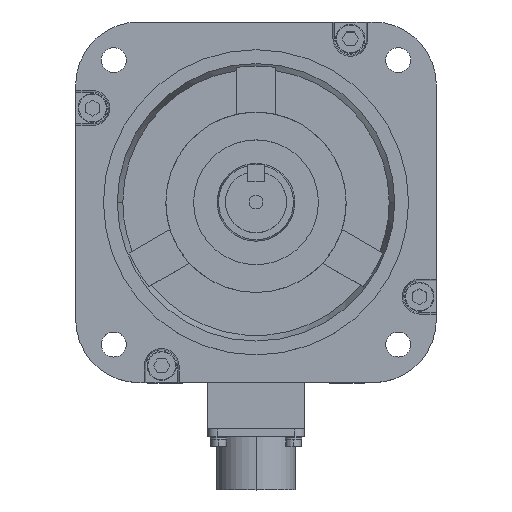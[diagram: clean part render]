
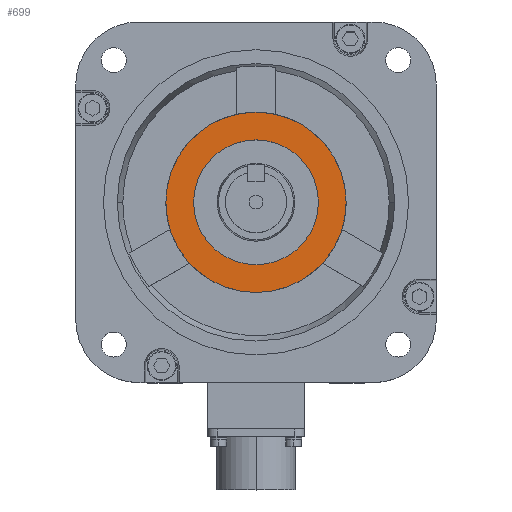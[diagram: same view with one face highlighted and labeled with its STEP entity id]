
A CAD part, top view. The second image highlights one B-rep face of the part: STEP entity #699.
In plain terms, the highlighted planar face has unit normal (0, 0, 1).
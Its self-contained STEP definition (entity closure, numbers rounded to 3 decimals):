
#260 = EDGE_LOOP ( 'NONE', ( #679, #677 ) ) ;
#286 = EDGE_CURVE ( 'NONE', #10078, #10417, #3139, .T. ) ;
#624 = ORIENTED_EDGE ( 'NONE', *, *, #11699, .T. ) ;
#625 = ORIENTED_EDGE ( 'NONE', *, *, #13920, .T. ) ;
#652 = EDGE_LOOP ( 'NONE', ( #624, #625 ) ) ;
#677 = ORIENTED_EDGE ( 'NONE', *, *, #9999, .F. ) ;
#679 = ORIENTED_EDGE ( 'NONE', *, *, #286, .F. ) ;
#699 = ADVANCED_FACE ( 'NONE', ( #3812, #3811 ), #3809, .T. ) ;
#3135 = DIRECTION ( 'NONE',  ( 1., 0., 0. ) ) ;
#3136 = DIRECTION ( 'NONE',  ( 0., 0., 1. ) ) ;
#3137 = CARTESIAN_POINT ( 'NONE',  ( 0., 0., 6. ) ) ;
#3138 = AXIS2_PLACEMENT_3D ( 'NONE', #3137, #3136, #3135 ) ;
#3139 = CIRCLE ( 'NONE', #3138, 22.5 ) ;
#3805 = DIRECTION ( 'NONE',  ( 1., 0., 0. ) ) ;
#3806 = DIRECTION ( 'NONE',  ( 0., 0., 1. ) ) ;
#3807 = CARTESIAN_POINT ( 'NONE',  ( 0., 0., 6. ) ) ;
#3808 = AXIS2_PLACEMENT_3D ( 'NONE', #3807, #3806, #3805 ) ;
#3809 = PLANE ( 'NONE',  #3808 ) ;
#3811 = FACE_OUTER_BOUND ( 'NONE', #652, .T. ) ;
#3812 = FACE_BOUND ( 'NONE', #260, .T. ) ;
#8121 = CARTESIAN_POINT ( 'NONE',  ( 22.5, 0., 6. ) ) ;
#8129 = DIRECTION ( 'NONE',  ( 1., 0., 0. ) ) ;
#8130 = DIRECTION ( 'NONE',  ( 0., 0., 1. ) ) ;
#8131 = CARTESIAN_POINT ( 'NONE',  ( 0., 0., 6. ) ) ;
#8132 = AXIS2_PLACEMENT_3D ( 'NONE', #8131, #8130, #8129 ) ;
#8133 = CIRCLE ( 'NONE', #8132, 22.5 ) ;
#8200 = CARTESIAN_POINT ( 'NONE',  ( -22.5, 0., 6. ) ) ;
#8654 = CARTESIAN_POINT ( 'NONE',  ( 32.5, 0., 6. ) ) ;
#8655 = DIRECTION ( 'NONE',  ( 1., 0., 0. ) ) ;
#8656 = DIRECTION ( 'NONE',  ( 0., 0., 1. ) ) ;
#8657 = CARTESIAN_POINT ( 'NONE',  ( 0., 0., 6. ) ) ;
#8658 = AXIS2_PLACEMENT_3D ( 'NONE', #8657, #8656, #8655 ) ;
#8659 = CIRCLE ( 'NONE', #8658, 32.5 ) ;
#8713 = CARTESIAN_POINT ( 'NONE',  ( -32.5, 0., 6. ) ) ;
#9999 = EDGE_CURVE ( 'NONE', #10417, #10078, #8133, .T. ) ;
#10078 = VERTEX_POINT ( 'NONE', #8121 ) ;
#10417 = VERTEX_POINT ( 'NONE', #8200 ) ;
#11699 = EDGE_CURVE ( 'NONE', #11702, #11765, #8659, .T. ) ;
#11702 = VERTEX_POINT ( 'NONE', #8654 ) ;
#11765 = VERTEX_POINT ( 'NONE', #8713 ) ;
#13920 = EDGE_CURVE ( 'NONE', #11765, #11702, #16263, .T. ) ;
#16259 = DIRECTION ( 'NONE',  ( 1., 0., 0. ) ) ;
#16260 = DIRECTION ( 'NONE',  ( 0., 0., 1. ) ) ;
#16261 = CARTESIAN_POINT ( 'NONE',  ( 0., 0., 6. ) ) ;
#16262 = AXIS2_PLACEMENT_3D ( 'NONE', #16261, #16260, #16259 ) ;
#16263 = CIRCLE ( 'NONE', #16262, 32.5 ) ;
